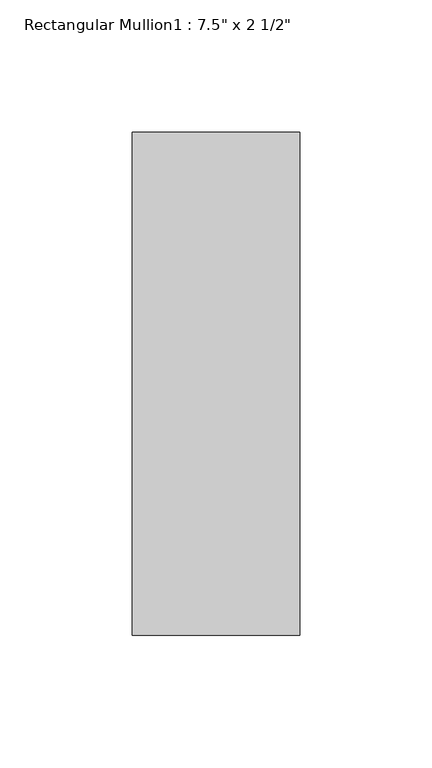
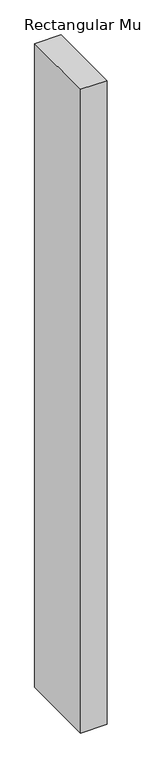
"""IFC4 building model written with IfcOpenShell, lengths in millimetres: member geometry."""

import ifcopenshell
import ifcopenshell.guid

model = None  # the IFC model being written
_history = None  # IfcOwnerHistory: only IFC2X3 demands one
_inside = {}  # id of a spatial element -> (the spatial element, [elements in it])
_under = {}  # id of a project, library or spatial element -> (it, [spatial elements below it])
_declared = {}  # id of a project -> (the project, [libraries it declares])
_typed = {}  # id of a type object -> (the type object, [elements of that type])
_made_of = {}  # id of a material, layer set ... -> (it, [elements and type objects made of it])


def new_model(schema):
    """Start an empty IFC model of exactly this schema.

    Asked for "IFC4X3", IfcOpenShell would pick the latest addendum, in which some entities
    have other attributes; the version numbers below select the first issue.
    IFC2X3 requires an IfcOwnerHistory on every rooted entity: one is made here for all.
    """
    global model, _history
    if schema == "IFC4X3":
        model = ifcopenshell.file(schema_version=(4, 3, 0, 0))
    else:
        model = ifcopenshell.file(schema=schema)
    _inside.clear()
    _under.clear()
    _declared.clear()
    _typed.clear()
    _made_of.clear()
    _history = None
    if model.schema == "IFC2X3":
        org = make("IfcOrganization", Name="unknown")
        user = make(
            "IfcPersonAndOrganization",
            ThePerson=make("IfcPerson", FamilyName="unknown"),
            TheOrganization=org,
        )
        app = make(
            "IfcApplication",
            ApplicationDeveloper=org,
            Version="unknown",
            ApplicationFullName="unknown",
            ApplicationIdentifier="unknown",
        )
        _history = make(
            "IfcOwnerHistory",
            OwningUser=user,
            OwningApplication=app,
            ChangeAction="ADDED",
            CreationDate=0,
        )
    return model


def make(cls, **values):
    """One entity of the class cls with the attributes given. An attribute that is None is left unset."""
    return model.create_entity(
        cls, **{name: value for name, value in values.items() if value is not None}
    )


def rooted(cls, **values):
    """An entity with a GlobalId (a new one), such as an element, a storey or a relation."""
    return make(cls, GlobalId=ifcopenshell.guid.new(), OwnerHistory=_history, **values)


def si_unit(unit_type, name, prefix=None):
    """IfcSIUnit, for example si_unit("LENGTHUNIT", "METRE", prefix="MILLI")."""
    return make("IfcSIUnit", UnitType=unit_type, Prefix=prefix, Name=name)


def assignment(units):
    """IfcUnitAssignment: the units of a project."""
    return None if units is None else make("IfcUnitAssignment", Units=units)


def point(xyz):
    """IfcCartesianPoint."""
    return None if xyz is None else make("IfcCartesianPoint", Coordinates=xyz)


def direction(xyz):
    """IfcDirection."""
    return None if xyz is None else make("IfcDirection", DirectionRatios=xyz)


def frame(location, z_axis=None, x_axis=None):
    """IfcAxis2Placement3D, a coordinate frame: its origin and axes. An axis left out is left unset."""
    return make(
        "IfcAxis2Placement3D",
        Location=point(location),
        Axis=direction(z_axis),
        RefDirection=direction(x_axis),
    )


def origin():
    """The frame at (0, 0, 0) with its axes left unset."""
    return frame((0.0, 0.0, 0.0))


def place(relative_to, where):
    """IfcLocalPlacement: puts the frame where relative to a parent placement (None: the world)."""
    return make(
        "IfcLocalPlacement", PlacementRelTo=relative_to, RelativePlacement=where
    )


def context(
    kind, dimensions, precision=None, world=None, true_north=None, identifier=None
):
    """IfcGeometricRepresentationContext, for example the 3D "Model" context."""
    return make(
        "IfcGeometricRepresentationContext",
        ContextIdentifier=identifier,
        ContextType=kind,
        CoordinateSpaceDimension=dimensions,
        Precision=precision,
        WorldCoordinateSystem=world,
        TrueNorth=true_north,
    )


def project(units=None, contexts=None):
    """IfcProject with its units and contexts."""
    return rooted(
        "IfcProject",
        Name="project",
        RepresentationContexts=contexts,
        UnitsInContext=assignment(units),
    )


def spatial(cls, under=None, at=None, **own):
    """A site, building, storey or space (cls), placed at a placement, below another one or the project."""
    s = rooted(cls, ObjectPlacement=at, **own)
    if under is not None:
        _under.setdefault(under.id(), (under, []))[1].append(s)
    return s


def polyline(points):
    """IfcPolyline through the points."""
    return make("IfcPolyline", Points=[point(p) for p in points])


def outline(outer, holes=None, kind="AREA"):
    """IfcArbitraryClosedProfileDef: a profile drawn as a closed curve; with holes, ...WithVoids."""
    if holes is None:
        return make("IfcArbitraryClosedProfileDef", ProfileType=kind, OuterCurve=outer)
    return make(
        "IfcArbitraryProfileDefWithVoids",
        ProfileType=kind,
        OuterCurve=outer,
        InnerCurves=holes,
    )


def extrude(swept, where, along, depth):
    """IfcExtrudedAreaSolid: the profile swept, set in the frame where, extruded along a direction by depth."""
    return make(
        "IfcExtrudedAreaSolid",
        SweptArea=swept,
        Position=where,
        ExtrudedDirection=direction(along),
        Depth=depth,
    )


def shape(context_of_items, identifier, shape_type, items):
    """IfcShapeRepresentation: the items that make up one representation, for example the "Body"."""
    return make(
        "IfcShapeRepresentation",
        ContextOfItems=context_of_items,
        RepresentationIdentifier=identifier,
        RepresentationType=shape_type,
        Items=items,
    )


def source(mapping_origin, context_of_items, identifier, shape_type, items):
    """IfcRepresentationMap: a shape defined once, which mapped items show again and again."""
    return make(
        "IfcRepresentationMap",
        MappingOrigin=mapping_origin,
        MappedRepresentation=shape(context_of_items, identifier, shape_type, items),
    )


def transform(
    local_origin,
    x_axis=None,
    y_axis=None,
    z_axis=None,
    scale=None,
    scale2=None,
    scale3=None,
    uniform=True,
):
    """IfcCartesianTransformationOperator3D, or its non-uniform kind. x_axis, y_axis, z_axis: its Axis1, 2, 3."""
    if uniform:
        return make(
            "IfcCartesianTransformationOperator3D",
            Axis1=direction(x_axis),
            Axis2=direction(y_axis),
            LocalOrigin=point(local_origin),
            Scale=scale,
            Axis3=direction(z_axis),
        )
    return make(
        "IfcCartesianTransformationOperator3DnonUniform",
        Axis1=direction(x_axis),
        Axis2=direction(y_axis),
        LocalOrigin=point(local_origin),
        Scale=scale,
        Axis3=direction(z_axis),
        Scale2=scale2,
        Scale3=scale3,
    )


def mapped(mapping_source, mapping_target):
    """IfcMappedItem: shows the shape of a source again, moved by a transform."""
    return make(
        "IfcMappedItem", MappingSource=mapping_source, MappingTarget=mapping_target
    )


def made_of(thing, what):
    """Note that an element or type object is made of a material, layer set ...; save() writes the relation."""
    if what is not None:
        _made_of.setdefault(what.id(), (what, []))[1].append(thing)
    return thing


def element(
    cls,
    number,
    at=None,
    inside=None,
    cuts=None,
    type_object=None,
    material=None,
    context=None,
    identifier="Body",
    shape_type=None,
    held_by="IfcProductDefinitionShape",
    body=None,
    shapes=None,
    **own,
):
    """One element of the class cls, such as IfcWall. Its Tag is "e" and its number.

    at: its placement. inside: the storey or other place that contains it. cuts: it is an
    opening in that element (IfcRelVoidsElement). A single representation is given by context,
    identifier, shape_type and body (its items); several are given by shapes. held_by: the class
    of the entity that holds the representations. save() writes the other relations.
    """
    e = rooted(cls, Tag="e%d" % number, ObjectPlacement=at, **own)
    if body is not None:
        shapes = [shape(context, identifier, shape_type, body)]
    if shapes is not None:
        e.Representation = make(held_by, Representations=shapes)
    if inside is not None:
        _inside.setdefault(inside.id(), (inside, []))[1].append(e)
    if cuts is not None:
        rooted(
            "IfcRelVoidsElement", RelatingBuildingElement=cuts, RelatedOpeningElement=e
        )
    if type_object is not None:
        _typed.setdefault(type_object.id(), (type_object, []))[1].append(e)
    return made_of(e, material)


def aggregate(whole, parts):
    """IfcRelAggregates: a whole, such as a stair, and the parts it consists of."""
    return rooted("IfcRelAggregates", RelatingObject=whole, RelatedObjects=parts)


def save(model, path):
    """Write the relations noted so far, then the file.

    IfcRelAggregates (storeys below a building ...), IfcRelContainedInSpatialStructure (elements
    in a storey), IfcRelDefinesByType, IfcRelAssociatesMaterial and IfcRelDeclares: one each for
    every whole, place, type object, material and project.
    """
    for whole, parts in _under.values():
        aggregate(whole, parts)
    for where, things in _inside.values():
        rooted(
            "IfcRelContainedInSpatialStructure",
            RelatedElements=things,
            RelatingStructure=where,
        )
    for kind, things in _typed.values():
        rooted("IfcRelDefinesByType", RelatedObjects=things, RelatingType=kind)
    for what, things in _made_of.values():
        rooted("IfcRelAssociatesMaterial", RelatedObjects=things, RelatingMaterial=what)
    for by, libraries in _declared.values():
        rooted("IfcRelDeclares", RelatingContext=by, RelatedDefinitions=libraries)
    model.write(path)


def member_e1f6b13e(model_context):
    return source(origin(), model_context, "Body", "SweptSolid", [
        extrude(outline(polyline([(31.75, 165.1), (31.75, -25.4), (-31.75, -25.4), (-31.75, 165.1), (31.75, 165.1)])), frame((0.0, 0.0, -1626.4033425), z_axis=(0.0, 0.0, 1.0), x_axis=(1.0, 0.0, 0.0)), (0.0, 0.0, 1.0), 1626.4033425),
    ])


if __name__ == "__main__":
    model = new_model("IFC4")
    model_context = context("Model", 3, world=origin())
    ifc_project = project(units=[si_unit("LENGTHUNIT", "METRE", prefix="MILLI")], contexts=[model_context])
    site = spatial("IfcSite", under=ifc_project)
    building = spatial("IfcBuilding", under=site)
    placement = place(None, origin())
    member_shape = member_e1f6b13e(model_context)
    element("IfcMember", 1, ObjectType="Rectangular Mullion1 : 7.5\" x 2 1/2\"", at=placement, inside=building, context=model_context, shape_type="MappedRepresentation", body=[
        mapped(member_shape, transform((0.0, 0.0, 0.0), x_axis=(1.0, 0.0, 0.0), y_axis=(0.0, 1.0, 0.0), z_axis=(0.0, 0.0, 1.0))),
    ])
    save(model, "model.ifc")
